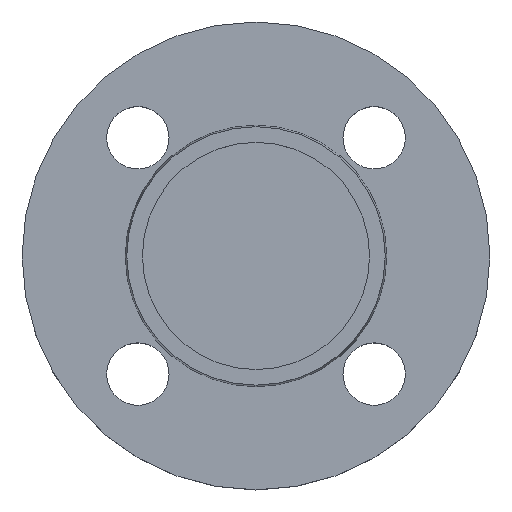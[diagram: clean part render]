
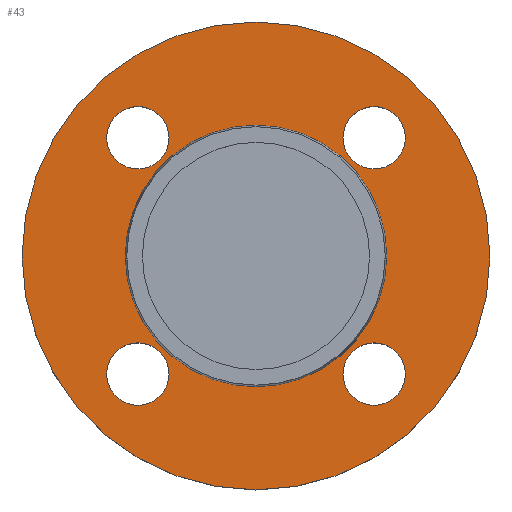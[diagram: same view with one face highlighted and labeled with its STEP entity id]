
A CAD part, top view. The second image highlights one B-rep face of the part: STEP entity #43.
In plain terms, the highlighted planar face has unit normal (0, 0, 1).
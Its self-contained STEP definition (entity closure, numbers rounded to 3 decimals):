
#12 = DIRECTION ( 'NONE',  ( 1., 0., 0. ) ) ;
#13 = DIRECTION ( 'NONE',  ( 0., 0., -1. ) ) ;
#14 = CARTESIAN_POINT ( 'NONE',  ( 26.517, -26.517, -2. ) ) ;
#25 = DIRECTION ( 'NONE',  ( 1., 0., 0. ) ) ;
#26 = DIRECTION ( 'NONE',  ( 0., 0., -1. ) ) ;
#27 = CARTESIAN_POINT ( 'NONE',  ( -26.517, 26.517, -2. ) ) ;
#39 = CARTESIAN_POINT ( 'NONE',  ( 0., 0., -2. ) ) ;
#40 = CARTESIAN_POINT ( 'NONE',  ( 19.517, -26.517, -2. ) ) ;
#43 = ADVANCED_FACE ( 'NONE', ( #527, #526, #524, #523, #522, #521 ), #519, .T. ) ;
#56 = CARTESIAN_POINT ( 'NONE',  ( 19.517, 26.517, -2. ) ) ;
#77 = DIRECTION ( 'NONE',  ( 1., 0., 0. ) ) ;
#78 = DIRECTION ( 'NONE',  ( 0., 0., -1. ) ) ;
#80 = CARTESIAN_POINT ( 'NONE',  ( -26.517, -26.517, -2. ) ) ;
#84 = DIRECTION ( 'NONE',  ( -1., 0., 0. ) ) ;
#85 = DIRECTION ( 'NONE',  ( 0., 0., -1. ) ) ;
#87 = CIRCLE ( 'NONE', #828, 7. ) ;
#88 = CARTESIAN_POINT ( 'NONE',  ( 0., 0., -2. ) ) ;
#99 = CARTESIAN_POINT ( 'NONE',  ( -19.517, -26.517, -2. ) ) ;
#108 = CIRCLE ( 'NONE', #233, 7. ) ;
#121 = DIRECTION ( 'NONE',  ( -1., 0., 0. ) ) ;
#122 = DIRECTION ( 'NONE',  ( 0., 0., -1. ) ) ;
#132 = DIRECTION ( 'NONE',  ( 1., 0., 0. ) ) ;
#133 = DIRECTION ( 'NONE',  ( 0., 0., -1. ) ) ;
#134 = CARTESIAN_POINT ( 'NONE',  ( 26.517, 26.517, -2. ) ) ;
#147 = CARTESIAN_POINT ( 'NONE',  ( 33.517, 26.517, -2. ) ) ;
#156 = DIRECTION ( 'NONE',  ( 1., 0., 0. ) ) ;
#157 = DIRECTION ( 'NONE',  ( 0., 0., -1. ) ) ;
#158 = CARTESIAN_POINT ( 'NONE',  ( -26.517, 26.517, -2. ) ) ;
#170 = CARTESIAN_POINT ( 'NONE',  ( -19.517, 26.517, -2. ) ) ;
#171 = CARTESIAN_POINT ( 'NONE',  ( 52.5, 0., -2. ) ) ;
#172 = CARTESIAN_POINT ( 'NONE',  ( -33.517, 26.517, -2. ) ) ;
#178 = EDGE_CURVE ( 'NONE', #710, #547, #288, .T. ) ;
#182 = CARTESIAN_POINT ( 'NONE',  ( 29.353, 0., -2. ) ) ;
#185 = CARTESIAN_POINT ( 'NONE',  ( -29.353, 0., -2. ) ) ;
#210 = CARTESIAN_POINT ( 'NONE',  ( 33.517, -26.517, -2. ) ) ;
#229 = CARTESIAN_POINT ( 'NONE',  ( -52.5, 0., -2. ) ) ;
#233 = AXIS2_PLACEMENT_3D ( 'NONE', #270, #268, #269 ) ;
#258 = AXIS2_PLACEMENT_3D ( 'NONE', #731, #122, #121 ) ;
#268 = DIRECTION ( 'NONE',  ( 0., 0., -1. ) ) ;
#269 = DIRECTION ( 'NONE',  ( 1., 0., 0. ) ) ;
#270 = CARTESIAN_POINT ( 'NONE',  ( 26.517, -26.517, -2. ) ) ;
#273 = CARTESIAN_POINT ( 'NONE',  ( -33.517, -26.517, -2. ) ) ;
#287 = AXIS2_PLACEMENT_3D ( 'NONE', #459, #458, #456 ) ;
#288 = CIRCLE ( 'NONE', #287, 7. ) ;
#320 = AXIS2_PLACEMENT_3D ( 'NONE', #326, #325, #323 ) ;
#323 = DIRECTION ( 'NONE',  ( 1., 0., 0. ) ) ;
#325 = DIRECTION ( 'NONE',  ( 0., 0., -1. ) ) ;
#326 = CARTESIAN_POINT ( 'NONE',  ( 26.517, 26.517, -2. ) ) ;
#332 = CIRCLE ( 'NONE', #320, 7. ) ;
#350 = AXIS2_PLACEMENT_3D ( 'NONE', #357, #355, #354 ) ;
#353 = CIRCLE ( 'NONE', #350, 52.5 ) ;
#354 = DIRECTION ( 'NONE',  ( -1., 0., 0. ) ) ;
#355 = DIRECTION ( 'NONE',  ( 0., 0., -1. ) ) ;
#357 = CARTESIAN_POINT ( 'NONE',  ( 0., 0., -2. ) ) ;
#363 = EDGE_CURVE ( 'NONE', #604, #627, #353, .T. ) ;
#438 = AXIS2_PLACEMENT_3D ( 'NONE', #517, #516, #515 ) ;
#452 = CIRCLE ( 'NONE', #472, 29.353 ) ;
#456 = DIRECTION ( 'NONE',  ( 1., 0., 0. ) ) ;
#458 = DIRECTION ( 'NONE',  ( 0., 0., -1. ) ) ;
#459 = CARTESIAN_POINT ( 'NONE',  ( -26.517, -26.517, -2. ) ) ;
#465 = EDGE_CURVE ( 'NONE', #654, #776, #332, .T. ) ;
#472 = AXIS2_PLACEMENT_3D ( 'NONE', #88, #85, #84 ) ;
#474 = AXIS2_PLACEMENT_3D ( 'NONE', #80, #78, #77 ) ;
#478 = CIRCLE ( 'NONE', #474, 7. ) ;
#512 = EDGE_CURVE ( 'NONE', #538, #802, #108, .T. ) ;
#515 = DIRECTION ( 'NONE',  ( 1., 0., 0. ) ) ;
#516 = DIRECTION ( 'NONE',  ( 0., 0., 1. ) ) ;
#517 = CARTESIAN_POINT ( 'NONE',  ( 29.353, 0., -2. ) ) ;
#519 = PLANE ( 'NONE',  #438 ) ;
#521 = FACE_OUTER_BOUND ( 'NONE', #546, .T. ) ;
#522 = FACE_BOUND ( 'NONE', #707, .T. ) ;
#523 = FACE_BOUND ( 'NONE', #783, .T. ) ;
#524 = FACE_BOUND ( 'NONE', #603, .T. ) ;
#526 = FACE_BOUND ( 'NONE', #614, .T. ) ;
#527 = FACE_BOUND ( 'NONE', #748, .T. ) ;
#533 = CIRCLE ( 'NONE', #590, 52.5 ) ;
#538 = VERTEX_POINT ( 'NONE', #210 ) ;
#546 = EDGE_LOOP ( 'NONE', ( #656, #657 ) ) ;
#547 = VERTEX_POINT ( 'NONE', #273 ) ;
#565 = VERTEX_POINT ( 'NONE', #172 ) ;
#570 = DIRECTION ( 'NONE',  ( -1., 0., 0. ) ) ;
#574 = VERTEX_POINT ( 'NONE', #185 ) ;
#590 = AXIS2_PLACEMENT_3D ( 'NONE', #39, #816, #570 ) ;
#591 = VERTEX_POINT ( 'NONE', #182 ) ;
#603 = EDGE_LOOP ( 'NONE', ( #638, #639 ) ) ;
#604 = VERTEX_POINT ( 'NONE', #229 ) ;
#605 = CIRCLE ( 'NONE', #640, 7. ) ;
#614 = EDGE_LOOP ( 'NONE', ( #629, #634 ) ) ;
#624 = ORIENTED_EDGE ( 'NONE', *, *, #512, .T. ) ;
#627 = VERTEX_POINT ( 'NONE', #171 ) ;
#628 = ORIENTED_EDGE ( 'NONE', *, *, #820, .T. ) ;
#629 = ORIENTED_EDGE ( 'NONE', *, *, #178, .T. ) ;
#630 = VERTEX_POINT ( 'NONE', #170 ) ;
#634 = ORIENTED_EDGE ( 'NONE', *, *, #752, .T. ) ;
#638 = ORIENTED_EDGE ( 'NONE', *, *, #644, .T. ) ;
#639 = ORIENTED_EDGE ( 'NONE', *, *, #815, .T. ) ;
#640 = AXIS2_PLACEMENT_3D ( 'NONE', #27, #26, #25 ) ;
#643 = ORIENTED_EDGE ( 'NONE', *, *, #465, .T. ) ;
#644 = EDGE_CURVE ( 'NONE', #630, #565, #756, .T. ) ;
#646 = ORIENTED_EDGE ( 'NONE', *, *, #674, .T. ) ;
#648 = AXIS2_PLACEMENT_3D ( 'NONE', #14, #13, #12 ) ;
#653 = ORIENTED_EDGE ( 'NONE', *, *, #683, .T. ) ;
#654 = VERTEX_POINT ( 'NONE', #147 ) ;
#655 = ORIENTED_EDGE ( 'NONE', *, *, #730, .T. ) ;
#656 = ORIENTED_EDGE ( 'NONE', *, *, #805, .F. ) ;
#657 = ORIENTED_EDGE ( 'NONE', *, *, #363, .F. ) ;
#662 = CIRCLE ( 'NONE', #648, 7. ) ;
#674 = EDGE_CURVE ( 'NONE', #776, #654, #87, .T. ) ;
#683 = EDGE_CURVE ( 'NONE', #574, #591, #754, .T. ) ;
#707 = EDGE_LOOP ( 'NONE', ( #653, #655 ) ) ;
#710 = VERTEX_POINT ( 'NONE', #99 ) ;
#730 = EDGE_CURVE ( 'NONE', #591, #574, #452, .T. ) ;
#731 = CARTESIAN_POINT ( 'NONE',  ( 0., 0., -2. ) ) ;
#748 = EDGE_LOOP ( 'NONE', ( #624, #628 ) ) ;
#752 = EDGE_CURVE ( 'NONE', #547, #710, #478, .T. ) ;
#754 = CIRCLE ( 'NONE', #258, 29.353 ) ;
#756 = CIRCLE ( 'NONE', #790, 7. ) ;
#776 = VERTEX_POINT ( 'NONE', #56 ) ;
#783 = EDGE_LOOP ( 'NONE', ( #643, #646 ) ) ;
#790 = AXIS2_PLACEMENT_3D ( 'NONE', #158, #157, #156 ) ;
#802 = VERTEX_POINT ( 'NONE', #40 ) ;
#805 = EDGE_CURVE ( 'NONE', #627, #604, #533, .T. ) ;
#815 = EDGE_CURVE ( 'NONE', #565, #630, #605, .T. ) ;
#816 = DIRECTION ( 'NONE',  ( 0., 0., -1. ) ) ;
#820 = EDGE_CURVE ( 'NONE', #802, #538, #662, .T. ) ;
#828 = AXIS2_PLACEMENT_3D ( 'NONE', #134, #133, #132 ) ;
